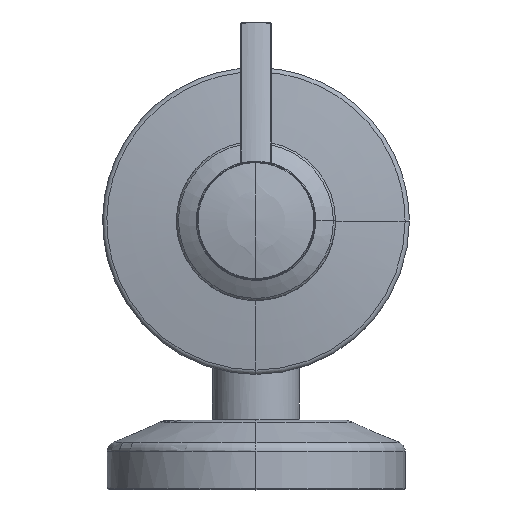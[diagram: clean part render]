
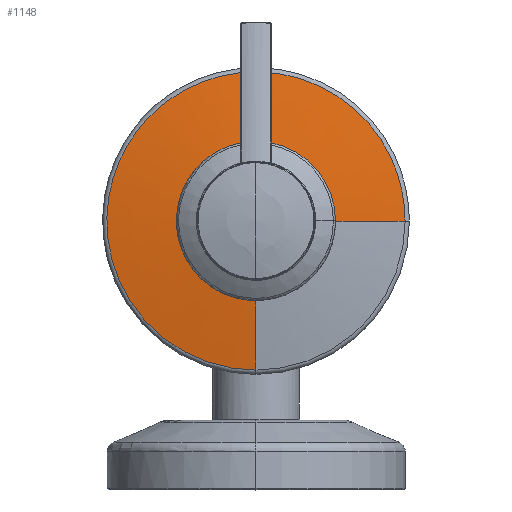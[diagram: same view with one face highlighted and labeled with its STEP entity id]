
A CAD part, top view. The second image highlights one B-rep face of the part: STEP entity #1148.
In plain terms, the highlighted toroidal (fillet/blend) face has major radius 40.524 mm and minor radius 500 mm.
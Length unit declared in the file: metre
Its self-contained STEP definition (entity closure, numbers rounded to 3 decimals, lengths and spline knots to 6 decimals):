
#1148=ADVANCED_FACE('',(#1154),#1149,.T.);
#1149=TOROIDAL_SURFACE('',#1150,-0.040524,0.5);
#1150=AXIS2_PLACEMENT_3D('',#1151,#1152,#1153);
#1151=CARTESIAN_POINT('',(0.0,0.04,-0.469013));
#1152=DIRECTION('',(0.0,0.0,-1.0));
#1153=DIRECTION('',(-1.0,0.0,0.0));
#1154=FACE_OUTER_BOUND('',#1155,.T.);
#1155=EDGE_LOOP('',(#1156,#1170,#1180,#1191));
#1156=ORIENTED_EDGE('',*,*,#1157,.T.);
#1157=EDGE_CURVE('',#1158,#1161,#1163,.T.);
#1158=VERTEX_POINT('',#1159);
#1159=CARTESIAN_POINT('',(0.0,0.02475,0.027867));
#1160=CARTESIAN_POINT('',(0.0,0.02475,0.027867));
#1161=VERTEX_POINT('',#1162);
#1162=CARTESIAN_POINT('',(0.01525,0.04,0.027867));
#1163=(B_SPLINE_CURVE(3,(#1160,#1164,#1165,#1166,#1167,#1168,#1169),
  .UNSPECIFIED.,.F.,.U.)B_SPLINE_CURVE_WITH_KNOTS((4,3,4),(0.0,0.5,1.0),
  .UNSPECIFIED.)BOUNDED_CURVE()CURVE()GEOMETRIC_REPRESENTATION_ITEM()RATIONAL_B_SPLINE_CURVE(
  (1.0,0.588,0.588,1.0,0.588,
  0.588,1.0))REPRESENTATION_ITEM(''));
#1164=CARTESIAN_POINT('',(-0.015962,0.02475,0.027867));
#1165=CARTESIAN_POINT('',(-0.02207,0.039497,
  0.027867));
#1166=CARTESIAN_POINT('',(-0.010783,0.050783,
  0.027867));
#1167=CARTESIAN_POINT('',(0.000503,0.06207,
  0.027867));
#1168=CARTESIAN_POINT('',(0.01525,0.055962,0.027867));
#1169=CARTESIAN_POINT('',(0.01525,0.04,0.027867));
#1170=ORIENTED_EDGE('',*,*,#1171,.T.);
#1171=EDGE_CURVE('',#1161,#1172,#1174,.T.);
#1172=VERTEX_POINT('',#1173);
#1173=CARTESIAN_POINT('',(0.029991,0.04,0.02599));
#1174=CIRCLE('',#1175,0.5);
#1175=AXIS2_PLACEMENT_3D('',#1176,#1177,#1178);
#1176=CARTESIAN_POINT('',(-0.040524,0.04,-0.469013));
#1177=DIRECTION('',(0.,1.0,0.0));
#1178=DIRECTION('',(-1.0,0.,0.0));
#1179=CARTESIAN_POINT('',(0.0,0.010009,0.02599));
#1180=ORIENTED_EDGE('',*,*,#1181,.F.);
#1181=EDGE_CURVE('',#1182,#1172,#1184,.T.);
#1182=VERTEX_POINT('',#1183);
#1183=CARTESIAN_POINT('',(0.0,0.010009,0.02599));
#1184=(B_SPLINE_CURVE(3,(#1179,#1185,#1186,#1187,#1188,#1189,#1190),
  .UNSPECIFIED.,.F.,.U.)B_SPLINE_CURVE_WITH_KNOTS((4,3,4),(0.0,0.5,1.0),
  .UNSPECIFIED.)BOUNDED_CURVE()CURVE()GEOMETRIC_REPRESENTATION_ITEM()RATIONAL_B_SPLINE_CURVE(
  (1.0,0.588,0.588,1.0,0.588,
  0.588,1.0))REPRESENTATION_ITEM(''));
#1185=CARTESIAN_POINT('',(-0.031391,0.010009,
  0.02599));
#1186=CARTESIAN_POINT('',(-0.043403,0.03901,
  0.02599));
#1187=CARTESIAN_POINT('',(-0.021207,0.061207,
  0.02599));
#1188=CARTESIAN_POINT('',(0.00099,0.083403,
  0.02599));
#1189=CARTESIAN_POINT('',(0.029991,0.071391,
  0.02599));
#1190=CARTESIAN_POINT('',(0.029991,0.04,0.02599));
#1191=ORIENTED_EDGE('',*,*,#1192,.T.);
#1192=EDGE_CURVE('',#1182,#1158,#1193,.T.);
#1193=CIRCLE('',#1194,0.5);
#1194=AXIS2_PLACEMENT_3D('',#1195,#1196,#1197);
#1195=CARTESIAN_POINT('',(0.0,0.080524,-0.469013));
#1196=DIRECTION('',(-1.0,0.0,0.0));
#1197=DIRECTION('',(0.0,0.0,1.0));
